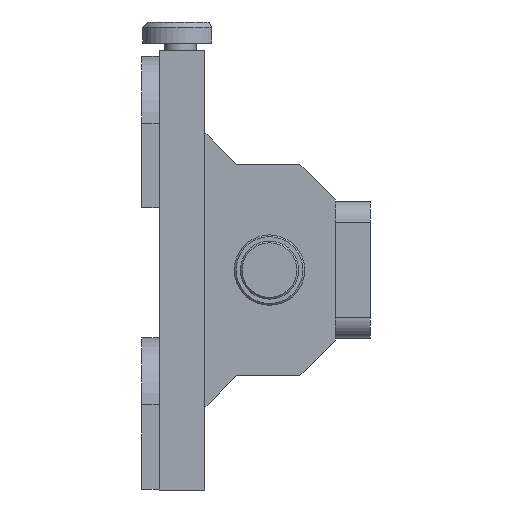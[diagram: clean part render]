
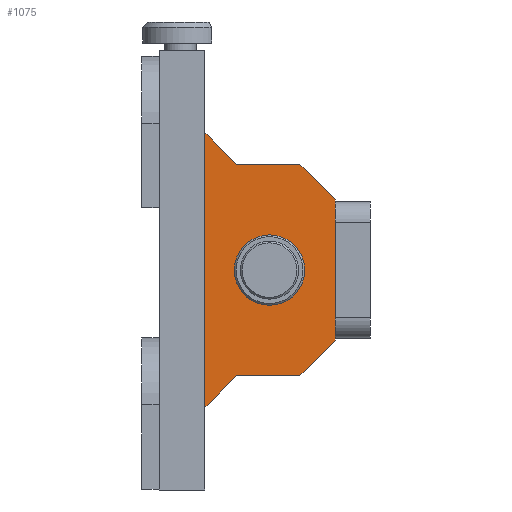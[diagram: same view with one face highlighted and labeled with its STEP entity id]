
A CAD part, left-side view. The second image highlights one B-rep face of the part: STEP entity #1075.
In plain terms, the highlighted planar face has unit normal (-1, 0, 0).
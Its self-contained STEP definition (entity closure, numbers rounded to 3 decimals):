
#2 = VERTEX_POINT ( 'NONE', #1464 ) ;
#9 = ORIENTED_EDGE ( 'NONE', *, *, #664, .F. ) ;
#71 = CARTESIAN_POINT ( 'NONE',  ( -13.5, 48., 30. ) ) ;
#75 = VECTOR ( 'NONE', #782, 1000. ) ;
#102 = DIRECTION ( 'NONE',  ( 0., 0., -1. ) ) ;
#116 = PLANE ( 'NONE',  #396 ) ;
#144 = EDGE_CURVE ( 'NONE', #2753, #911, #1938, .T. ) ;
#150 = CARTESIAN_POINT ( 'NONE',  ( -13.5, 38.66, -10. ) ) ;
#179 = VERTEX_POINT ( 'NONE', #2482 ) ;
#218 = DIRECTION ( 'NONE',  ( -1., 0., 0. ) ) ;
#268 = VERTEX_POINT ( 'NONE', #1201 ) ;
#269 = EDGE_CURVE ( 'NONE', #2, #2748, #1614, .T. ) ;
#272 = EDGE_CURVE ( 'NONE', #179, #2061, #756, .T. ) ;
#313 = VECTOR ( 'NONE', #2736, 1000. ) ;
#331 = DIRECTION ( 'NONE',  ( 0., -0.707, -0.707 ) ) ;
#337 = FACE_BOUND ( 'NONE', #2239, .T. ) ;
#352 = DIRECTION ( 'NONE',  ( 0., -0.707, -0.707 ) ) ;
#364 = EDGE_CURVE ( 'NONE', #268, #179, #383, .T. ) ;
#383 = LINE ( 'NONE', #602, #2540 ) ;
#396 = AXIS2_PLACEMENT_3D ( 'NONE', #1029, #1668, #102 ) ;
#430 = EDGE_CURVE ( 'NONE', #1536, #1536, #991, .T. ) ;
#490 = DIRECTION ( 'NONE',  ( 0., 0., -1. ) ) ;
#602 = CARTESIAN_POINT ( 'NONE',  ( -13.5, 20., 20. ) ) ;
#664 = EDGE_CURVE ( 'NONE', #1661, #1052, #1095, .T. ) ;
#756 = LINE ( 'NONE', #1825, #2334 ) ;
#782 = DIRECTION ( 'NONE',  ( 0., 0., -1. ) ) ;
#795 = CARTESIAN_POINT ( 'NONE',  ( -13.5, 20., -20. ) ) ;
#823 = CARTESIAN_POINT ( 'NONE',  ( -13.5, 57., 62.5 ) ) ;
#843 = LINE ( 'NONE', #1733, #1720 ) ;
#876 = DIRECTION ( 'NONE',  ( 0., 0., 1. ) ) ;
#893 = VECTOR ( 'NONE', #2935, 1000. ) ;
#909 = CARTESIAN_POINT ( 'NONE',  ( -13.5, 20., -20. ) ) ;
#911 = VERTEX_POINT ( 'NONE', #2882 ) ;
#940 = ORIENTED_EDGE ( 'NONE', *, *, #272, .F. ) ;
#991 = CIRCLE ( 'NONE', #1544, 10. ) ;
#1024 = CARTESIAN_POINT ( 'NONE',  ( -13.5, 48., -30. ) ) ;
#1029 = CARTESIAN_POINT ( 'NONE',  ( -13.5, 57., 62.5 ) ) ;
#1031 = ORIENTED_EDGE ( 'NONE', *, *, #2801, .F. ) ;
#1052 = VERTEX_POINT ( 'NONE', #795 ) ;
#1075 = ADVANCED_FACE ( 'NONE', ( #337, #1245 ), #116, .F. ) ;
#1095 = LINE ( 'NONE', #909, #893 ) ;
#1127 = DIRECTION ( 'NONE',  ( 0., -1., 0. ) ) ;
#1140 = VECTOR ( 'NONE', #876, 1000. ) ;
#1185 = EDGE_CURVE ( 'NONE', #2414, #268, #1623, .T. ) ;
#1194 = EDGE_CURVE ( 'NONE', #2748, #2753, #1240, .T. ) ;
#1201 = CARTESIAN_POINT ( 'NONE',  ( -13.5, 30., 30. ) ) ;
#1240 = LINE ( 'NONE', #1024, #1757 ) ;
#1245 = FACE_OUTER_BOUND ( 'NONE', #1963, .T. ) ;
#1371 = CARTESIAN_POINT ( 'NONE',  ( -13.5, 30., 30. ) ) ;
#1437 = CARTESIAN_POINT ( 'NONE',  ( -13.5, 20., -20. ) ) ;
#1464 = CARTESIAN_POINT ( 'NONE',  ( -13.5, 30., -30. ) ) ;
#1466 = CARTESIAN_POINT ( 'NONE',  ( -13.5, 57., -39. ) ) ;
#1507 = DIRECTION ( 'NONE',  ( 0., 0.707, -0.707 ) ) ;
#1536 = VERTEX_POINT ( 'NONE', #150 ) ;
#1544 = AXIS2_PLACEMENT_3D ( 'NONE', #1573, #218, #1748 ) ;
#1573 = CARTESIAN_POINT ( 'NONE',  ( -13.5, 38.66, 0. ) ) ;
#1614 = LINE ( 'NONE', #2502, #313 ) ;
#1623 = LINE ( 'NONE', #1371, #2224 ) ;
#1661 = VERTEX_POINT ( 'NONE', #1952 ) ;
#1664 = CARTESIAN_POINT ( 'NONE',  ( -13.5, 57., 39. ) ) ;
#1668 = DIRECTION ( 'NONE',  ( 1., 0., 0. ) ) ;
#1673 = LINE ( 'NONE', #1437, #75 ) ;
#1720 = VECTOR ( 'NONE', #1507, 1000. ) ;
#1733 = CARTESIAN_POINT ( 'NONE',  ( -13.5, 30., -30. ) ) ;
#1748 = DIRECTION ( 'NONE',  ( 0., 0., -1. ) ) ;
#1757 = VECTOR ( 'NONE', #2820, 1000. ) ;
#1758 = ORIENTED_EDGE ( 'NONE', *, *, #430, .F. ) ;
#1779 = ORIENTED_EDGE ( 'NONE', *, *, #1194, .F. ) ;
#1795 = ORIENTED_EDGE ( 'NONE', *, *, #2545, .F. ) ;
#1825 = CARTESIAN_POINT ( 'NONE',  ( -13.5, 20., -20. ) ) ;
#1938 = LINE ( 'NONE', #823, #1140 ) ;
#1952 = CARTESIAN_POINT ( 'NONE',  ( -13.5, 20., -19.5 ) ) ;
#1963 = EDGE_LOOP ( 'NONE', ( #2452, #1779, #2444, #2034, #9, #1031, #940, #2430, #2734, #1795 ) ) ;
#2034 = ORIENTED_EDGE ( 'NONE', *, *, #2608, .F. ) ;
#2061 = VERTEX_POINT ( 'NONE', #2441 ) ;
#2109 = CARTESIAN_POINT ( 'NONE',  ( -13.5, 48., -30. ) ) ;
#2224 = VECTOR ( 'NONE', #1127, 1000. ) ;
#2239 = EDGE_LOOP ( 'NONE', ( #1758 ) ) ;
#2332 = VECTOR ( 'NONE', #331, 1000. ) ;
#2334 = VECTOR ( 'NONE', #490, 1000. ) ;
#2349 = LINE ( 'NONE', #1664, #2332 ) ;
#2414 = VERTEX_POINT ( 'NONE', #71 ) ;
#2430 = ORIENTED_EDGE ( 'NONE', *, *, #364, .F. ) ;
#2441 = CARTESIAN_POINT ( 'NONE',  ( -13.5, 20., 19.5 ) ) ;
#2444 = ORIENTED_EDGE ( 'NONE', *, *, #269, .F. ) ;
#2452 = ORIENTED_EDGE ( 'NONE', *, *, #144, .F. ) ;
#2482 = CARTESIAN_POINT ( 'NONE',  ( -13.5, 20., 20. ) ) ;
#2502 = CARTESIAN_POINT ( 'NONE',  ( -13.5, 48., -30. ) ) ;
#2540 = VECTOR ( 'NONE', #352, 1000. ) ;
#2545 = EDGE_CURVE ( 'NONE', #911, #2414, #2349, .T. ) ;
#2608 = EDGE_CURVE ( 'NONE', #1052, #2, #843, .T. ) ;
#2734 = ORIENTED_EDGE ( 'NONE', *, *, #1185, .F. ) ;
#2736 = DIRECTION ( 'NONE',  ( 0., 1., 0. ) ) ;
#2748 = VERTEX_POINT ( 'NONE', #2109 ) ;
#2753 = VERTEX_POINT ( 'NONE', #1466 ) ;
#2801 = EDGE_CURVE ( 'NONE', #2061, #1661, #1673, .T. ) ;
#2820 = DIRECTION ( 'NONE',  ( 0., 0.707, -0.707 ) ) ;
#2882 = CARTESIAN_POINT ( 'NONE',  ( -13.5, 57., 39. ) ) ;
#2935 = DIRECTION ( 'NONE',  ( 0., 0., -1. ) ) ;
